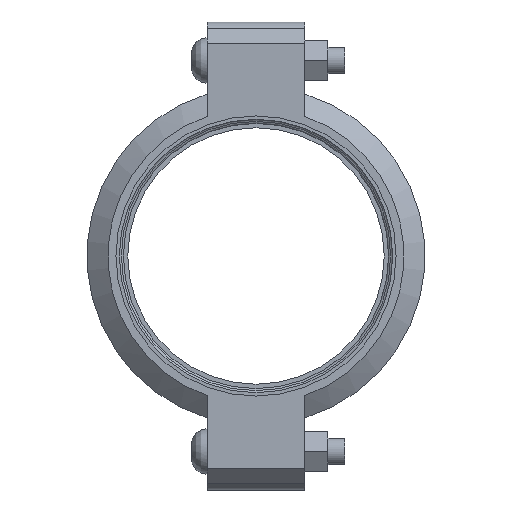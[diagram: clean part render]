
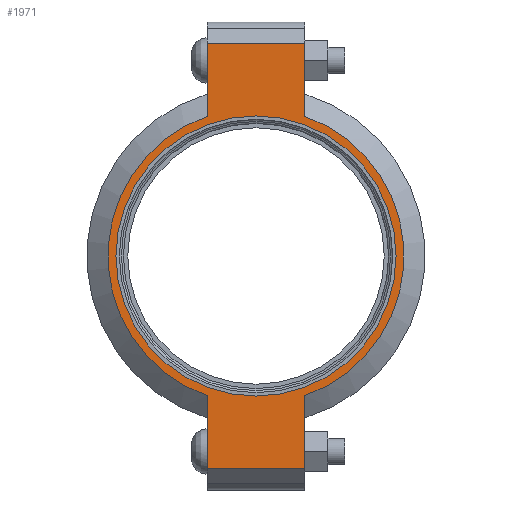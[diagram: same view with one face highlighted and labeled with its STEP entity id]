
A CAD part, left-side view. The second image highlights one B-rep face of the part: STEP entity #1971.
In plain terms, the highlighted planar face has unit normal (-1, 0, 0) as drawn and (0, 0, 1) by its records, which use the part's own axes.
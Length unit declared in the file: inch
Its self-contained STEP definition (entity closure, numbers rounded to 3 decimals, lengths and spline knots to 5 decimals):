
#160=LINE('',#3493,#257);
#168=LINE('',#3529,#265);
#175=LINE('',#3550,#272);
#184=LINE('',#3582,#281);
#185=LINE('',#3586,#282);
#186=LINE('',#3588,#283);
#257=VECTOR('',#2845,0.3937);
#265=VECTOR('',#2861,0.3937);
#272=VECTOR('',#2880,0.3937);
#281=VECTOR('',#2905,0.3937);
#282=VECTOR('',#2910,0.3937);
#283=VECTOR('',#2911,0.3937);
#339=FACE_BOUND('',#589,.T.);
#383=PLANE('',#2310);
#471=FACE_OUTER_BOUND('',#588,.T.);
#588=EDGE_LOOP('',(#1692,#1693,#1694,#1695,#1696,#1697,#1698,#1699));
#589=EDGE_LOOP('',(#1700));
#761=CIRCLE('',#2311,3.5);
#762=CIRCLE('',#2312,3.5);
#763=CIRCLE('',#2313,3.3125);
#925=VERTEX_POINT('',#3490);
#926=VERTEX_POINT('',#3492);
#937=VERTEX_POINT('',#3524);
#938=VERTEX_POINT('',#3528);
#945=VERTEX_POINT('',#3547);
#946=VERTEX_POINT('',#3549);
#956=VERTEX_POINT('',#3585);
#957=VERTEX_POINT('',#3587);
#958=VERTEX_POINT('',#3590);
#1170=EDGE_CURVE('',#926,#925,#160,.T.);
#1184=EDGE_CURVE('',#938,#937,#168,.T.);
#1194=EDGE_CURVE('',#946,#945,#175,.T.);
#1209=EDGE_CURVE('',#938,#925,#184,.T.);
#1210=EDGE_CURVE('',#937,#946,#761,.T.);
#1211=EDGE_CURVE('',#956,#945,#185,.T.);
#1212=EDGE_CURVE('',#956,#957,#186,.T.);
#1213=EDGE_CURVE('',#957,#926,#762,.T.);
#1214=EDGE_CURVE('',#958,#958,#763,.T.);
#1692=ORIENTED_EDGE('',*,*,#1209,.F.);
#1693=ORIENTED_EDGE('',*,*,#1184,.T.);
#1694=ORIENTED_EDGE('',*,*,#1210,.T.);
#1695=ORIENTED_EDGE('',*,*,#1194,.T.);
#1696=ORIENTED_EDGE('',*,*,#1211,.F.);
#1697=ORIENTED_EDGE('',*,*,#1212,.T.);
#1698=ORIENTED_EDGE('',*,*,#1213,.T.);
#1699=ORIENTED_EDGE('',*,*,#1170,.T.);
#1700=ORIENTED_EDGE('',*,*,#1214,.T.);
#1971=ADVANCED_FACE('',(#471,#339),#383,.T.);
#2310=AXIS2_PLACEMENT_3D('',#3583,#2906,#2907);
#2311=AXIS2_PLACEMENT_3D('',#3584,#2908,#2909);
#2312=AXIS2_PLACEMENT_3D('',#3589,#2912,#2913);
#2313=AXIS2_PLACEMENT_3D('',#3591,#2914,#2915);
#2845=DIRECTION('',(1.,0.,0.));
#2861=DIRECTION('',(-1.,0.,0.));
#2880=DIRECTION('',(-1.,0.,0.));
#2905=DIRECTION('',(0.,-1.,0.));
#2906=DIRECTION('center_axis',(0.,0.,1.));
#2907=DIRECTION('ref_axis',(-1.,0.,0.));
#2908=DIRECTION('center_axis',(0.,0.,1.));
#2909=DIRECTION('ref_axis',(1.,0.,0.));
#2910=DIRECTION('',(0.,1.,0.));
#2911=DIRECTION('',(1.,0.,0.));
#2912=DIRECTION('center_axis',(0.,0.,1.));
#2913=DIRECTION('ref_axis',(1.,0.,0.));
#2914=DIRECTION('center_axis',(0.,0.,-1.));
#2915=DIRECTION('ref_axis',(1.,0.,0.));
#3490=CARTESIAN_POINT('',(5.035,-1.156,1.065));
#3492=CARTESIAN_POINT('',(3.30358,-1.156,1.065));
#3493=CARTESIAN_POINT('',(5.535,-1.156,1.065));
#3524=CARTESIAN_POINT('',(3.30358,1.156,1.065));
#3528=CARTESIAN_POINT('',(5.035,1.156,1.065));
#3529=CARTESIAN_POINT('',(-5.535,1.156,1.065));
#3547=CARTESIAN_POINT('',(-5.035,1.156,1.065));
#3549=CARTESIAN_POINT('',(-3.30358,1.156,1.065));
#3550=CARTESIAN_POINT('',(-5.535,1.156,1.065));
#3582=CARTESIAN_POINT('',(5.035,-0.578,1.065));
#3583=CARTESIAN_POINT('Origin',(0.,0.,
1.065));
#3584=CARTESIAN_POINT('Origin',(0.,0.,1.065));
#3585=CARTESIAN_POINT('',(-5.035,-1.156,1.065));
#3586=CARTESIAN_POINT('',(-5.035,0.578,1.065));
#3587=CARTESIAN_POINT('',(-3.30358,-1.156,1.065));
#3588=CARTESIAN_POINT('',(5.535,-1.156,1.065));
#3589=CARTESIAN_POINT('Origin',(0.,0.,1.065));
#3590=CARTESIAN_POINT('',(-3.3125,0.,1.065));
#3591=CARTESIAN_POINT('Origin',(0.,0.,1.065));
